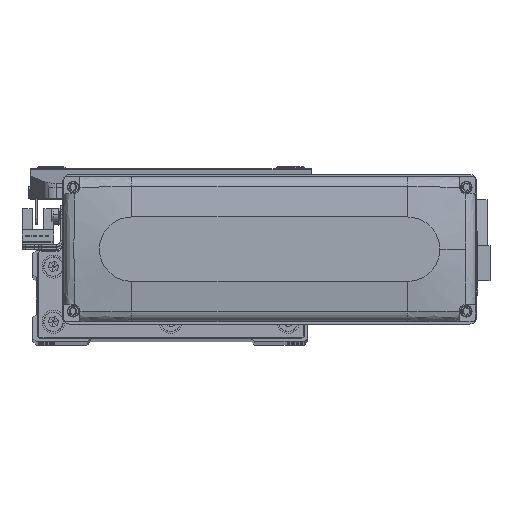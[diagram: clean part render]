
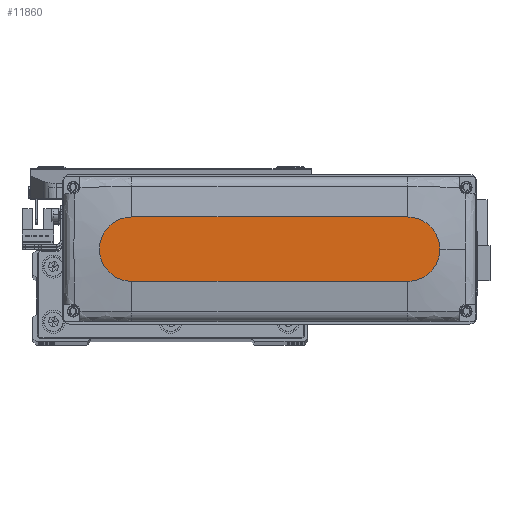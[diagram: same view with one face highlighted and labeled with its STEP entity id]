
A CAD part, top view. The second image highlights one B-rep face of the part: STEP entity #11860.
In plain terms, the highlighted planar face has unit normal (0, 0, 1).
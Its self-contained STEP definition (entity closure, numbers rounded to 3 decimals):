
#1411 = DIRECTION ( 'NONE',  ( 1., 0., 0. ) ) ;
#3303 = CIRCLE ( 'NONE', #37012, 14. ) ;
#4878 = ORIENTED_EDGE ( 'NONE', *, *, #36872, .T. ) ;
#5677 = DIRECTION ( 'NONE',  ( 0., 0., 1. ) ) ;
#5783 = CARTESIAN_POINT ( 'NONE',  ( 60., -14., 28.5 ) ) ;
#6099 = ORIENTED_EDGE ( 'NONE', *, *, #26909, .T. ) ;
#8333 = DIRECTION ( 'NONE',  ( -1., 0., 0. ) ) ;
#8934 = CIRCLE ( 'NONE', #21956, 14. ) ;
#11247 = CARTESIAN_POINT ( 'NONE',  ( -60., -14., 28.5 ) ) ;
#11724 = DIRECTION ( 'NONE',  ( 0., 0., 1. ) ) ;
#11860 = ADVANCED_FACE ( 'NONE', ( #21698 ), #38455, .T. ) ;
#15156 = DIRECTION ( 'NONE',  ( 1., 0., 0. ) ) ;
#18134 = CARTESIAN_POINT ( 'NONE',  ( 0., 0., 28.5 ) ) ;
#18568 = VERTEX_POINT ( 'NONE', #5783 ) ;
#19196 = VERTEX_POINT ( 'NONE', #32518 ) ;
#20591 = AXIS2_PLACEMENT_3D ( 'NONE', #49023, #23868, #15156 ) ;
#21436 = DIRECTION ( 'NONE',  ( 1., 0., 0. ) ) ;
#21698 = FACE_OUTER_BOUND ( 'NONE', #26024, .T. ) ;
#21956 = AXIS2_PLACEMENT_3D ( 'NONE', #41712, #11724, #41441 ) ;
#23868 = DIRECTION ( 'NONE',  ( 0., 0., 1. ) ) ;
#24033 = ORIENTED_EDGE ( 'NONE', *, *, #30518, .T. ) ;
#24817 = CARTESIAN_POINT ( 'NONE',  ( -60., -14., 28.5 ) ) ;
#26024 = EDGE_LOOP ( 'NONE', ( #4878, #27087, #31188, #6099, #24033 ) ) ;
#26779 = EDGE_CURVE ( 'NONE', #19196, #38444, #3303, .T. ) ;
#26909 = EDGE_CURVE ( 'NONE', #18568, #41008, #28402, .T. ) ;
#27087 = ORIENTED_EDGE ( 'NONE', *, *, #26779, .T. ) ;
#28067 = LINE ( 'NONE', #11247, #38642 ) ;
#28402 = CIRCLE ( 'NONE', #20591, 14. ) ;
#30518 = EDGE_CURVE ( 'NONE', #41008, #41854, #8934, .T. ) ;
#31188 = ORIENTED_EDGE ( 'NONE', *, *, #41638, .T. ) ;
#32518 = CARTESIAN_POINT ( 'NONE',  ( -60., 14., 28.5 ) ) ;
#34692 = CARTESIAN_POINT ( 'NONE',  ( -60., 0., 28.5 ) ) ;
#36872 = EDGE_CURVE ( 'NONE', #41854, #19196, #53308, .T. ) ;
#37012 = AXIS2_PLACEMENT_3D ( 'NONE', #34692, #51491, #1411 ) ;
#38444 = VERTEX_POINT ( 'NONE', #24817 ) ;
#38455 = PLANE ( 'NONE',  #42626 ) ;
#38642 = VECTOR ( 'NONE', #44570, 1000. ) ;
#41008 = VERTEX_POINT ( 'NONE', #42035 ) ;
#41441 = DIRECTION ( 'NONE',  ( 1., 0., 0. ) ) ;
#41638 = EDGE_CURVE ( 'NONE', #38444, #18568, #28067, .T. ) ;
#41712 = CARTESIAN_POINT ( 'NONE',  ( 60., 0., 28.5 ) ) ;
#41854 = VERTEX_POINT ( 'NONE', #43151 ) ;
#42035 = CARTESIAN_POINT ( 'NONE',  ( 74., 0., 28.5 ) ) ;
#42626 = AXIS2_PLACEMENT_3D ( 'NONE', #18134, #5677, #21436 ) ;
#43151 = CARTESIAN_POINT ( 'NONE',  ( 60., 14., 28.5 ) ) ;
#44570 = DIRECTION ( 'NONE',  ( 1., 0., 0. ) ) ;
#45166 = CARTESIAN_POINT ( 'NONE',  ( -60., 14., 28.5 ) ) ;
#45223 = VECTOR ( 'NONE', #8333, 1000. ) ;
#49023 = CARTESIAN_POINT ( 'NONE',  ( 60., 0., 28.5 ) ) ;
#51491 = DIRECTION ( 'NONE',  ( 0., 0., 1. ) ) ;
#53308 = LINE ( 'NONE', #45166, #45223 ) ;
